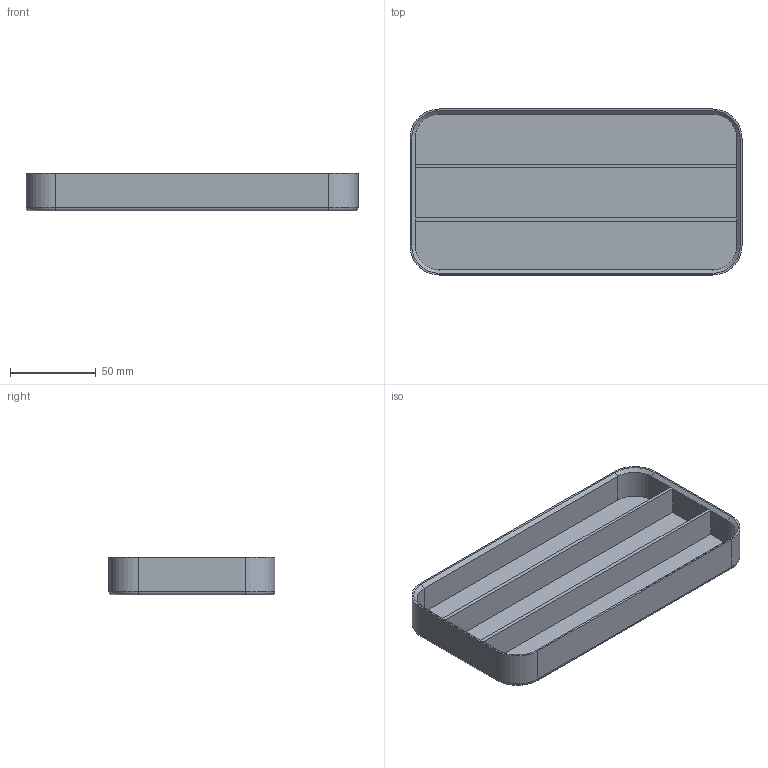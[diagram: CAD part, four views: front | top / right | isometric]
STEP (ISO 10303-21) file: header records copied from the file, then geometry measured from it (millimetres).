
FILE_DESCRIPTION(/* description */ (''),/* implementation_level */ '2;1');
FILE_NAME(/* name */ '2x4_subdivided1.step',/* time_stamp */ '2026-07-08T13:29:58-03:00',/* author */ (''),/* organization */ (''),/* preprocessor_version */ 'ST-DEVELOPER v20.1',/* originating_system */ 'Autodesk Translation Framework v15.8.0.0',/* authorisation */ '');
FILE_SCHEMA (('AUTOMOTIVE_DESIGN { 1 0 10303 214 3 1 1 }'));
Length unit declared in the file: millimetre
Products named in the file (1): Internal tray parametric
Bounding box: 194 x 97 x 22 mm (x, y, z)
Volume: 97918.5 mm3; surface area: 70998.4 mm2
Topology: 1 solids, 1 shells, 47 faces, 108 edges, 64 vertices
Faces by surface type: plane 27, cylinder 12, torus 4, cone 4
Entity records: 1335 total; most frequent: DIRECTION 236, CARTESIAN_POINT 220, ORIENTED_EDGE 216, EDGE_CURVE 108, AXIS2_PLACEMENT_3D 80, LINE 76, VECTOR 76, VERTEX_POINT 64
